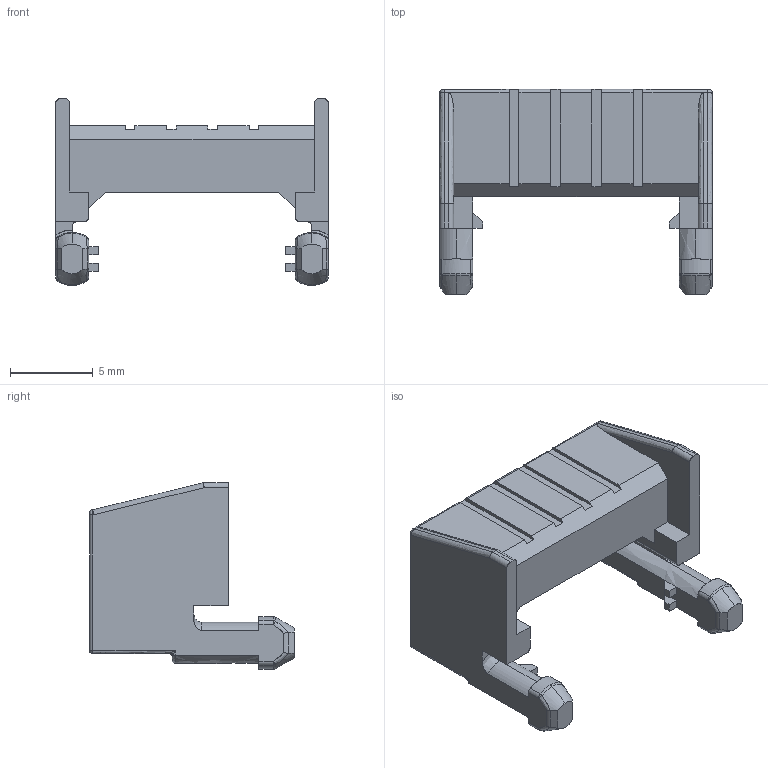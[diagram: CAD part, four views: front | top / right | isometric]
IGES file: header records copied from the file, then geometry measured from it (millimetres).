
Start section: SolidWorks IGES file using analytic representation for surfaces
Bounding box: 16.5 x 12.4 x 11.3 mm (x, y, z)
Surface area: 753.7 mm2 (no closed solid volume)
Topology: 0 solids, 0 shells, 203 faces, 1298 edges, 1290 vertices
Faces by surface type: bspline 121, revolution 82
